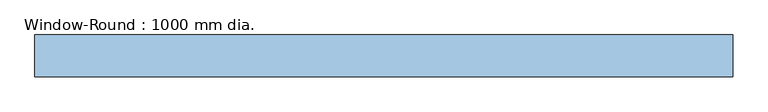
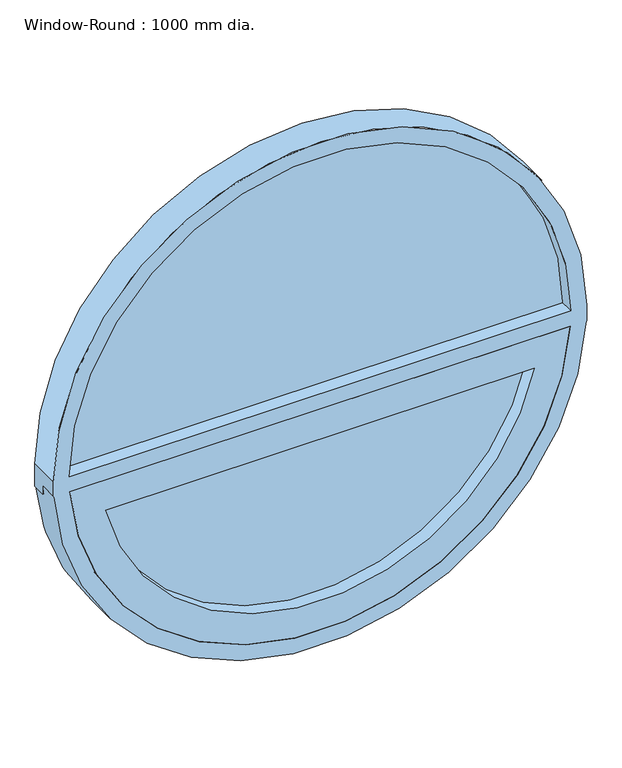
"""IFC4 building model written with IfcOpenShell, lengths in millimetres: window geometry, Window-Round : 1000 mm dia.."""

from ifc_helpers import new_model, si_unit, point, frame, frame_2d, origin, place, context, project, spatial, polyline, circle_curve, trimmed, segment, composite_curve, outline, extrude, source, transform, mapped, element, save
from ifc_brep_helpers import plane_surface, cylinder_surface, revolved_surface, advanced_brep


def window_round_1000_mm_dia_47539739(model_context):
    return source(origin(), model_context, "Body", "SolidModel", [
        advanced_brep(
        [(150.0, -30.0, 1300.0), (150.0, -30.0, 1270.0), (150.0, 5.0, 1270.0), (150.0, 5.0, 1255.0), (150.0, 30.0, 1255.0), (150.0, 30.0, 1300.0), (-850.0, 30.0, 1300.0), (-850.0, 30.0, 1255.0), (-850.0, 5.0, 1255.0), (-850.0, 5.0, 1270.0), (-850.0, -30.0, 1270.0), (-850.0, -30.0, 1300.0), (-849.0991885, -30.0, 1270.0), (149.0991885, -30.0, 1270.0), (-819.041576, -30.0, 1270.0), (119.041576, -30.0, 1270.0), (120.0, -30.0, 1300.0), (-820.0, -30.0, 1300.0), (149.0991885, 5.0, 1270.0), (-849.0991885, 5.0, 1270.0), (-819.041576, 5.0, 1270.0), (119.041576, 5.0, 1270.0), (147.9708827, 5.0, 1255.0), (-847.9708827, 5.0, 1255.0), (-802.7692569, 5.0, 1255.0), (102.7692569, 5.0, 1255.0), (120.0, 5.0, 1300.0), (-820.0, 5.0, 1300.0), (-805.0, 5.0, 1300.0), (105.0, 5.0, 1300.0), (147.9708827, 30.0, 1255.0), (-847.9708827, 30.0, 1255.0), (-802.7692569, 30.0, 1255.0), (102.7692569, 30.0, 1255.0), (-805.0, 30.0, 1300.0), (105.0, 30.0, 1300.0)],
        [
            (0, 1),
            (1, 2),
            (2, 3),
            (3, 4),
            (4, 5),
            (5, 0),
            (6, 7),
            (7, 8),
            (8, 9),
            (9, 10),
            (10, 11),
            (11, 6),
            (0, 11, circle_curve(frame((-350.0, -30.0, 1300.0), z_axis=(0.0, -1.0, 0.0), x_axis=(1.0, 0.0, 0.0)), 500.0)),
            (10, 12),
            (12, 13, circle_curve(frame((-350.0, -30.0, 1300.0), z_axis=(0.0, -1.0, 0.0), x_axis=(-1.0, 0.0, 0.0)), 500.0)),
            (13, 1),
            (14, 15),
            (15, 14, circle_curve(frame((-350.0, -30.0, 1300.0), z_axis=(0.0, 1.0, 0.0), x_axis=(-1.0, 0.0, 0.0)), 470.0)),
            (16, 17),
            (17, 16, circle_curve(frame((-350.0, -30.0, 1300.0), z_axis=(0.0, 1.0, 0.0), x_axis=(1.0, 0.0, 0.0)), 470.0)),
            (13, 18),
            (18, 2),
            (9, 19),
            (19, 12),
            (14, 20),
            (20, 21),
            (21, 15),
            (18, 22, circle_curve(frame((-350.0, 5.0, 1300.0), z_axis=(0.0, 1.0, 0.0), x_axis=(-1.0, 0.0, 0.0)), 500.0)),
            (22, 3),
            (8, 23),
            (23, 19, circle_curve(frame((-350.0, 5.0, 1300.0), z_axis=(0.0, 1.0, 0.0), x_axis=(-1.0, 0.0, 0.0)), 500.0)),
            (20, 21, circle_curve(frame((-350.0, 5.0, 1300.0), z_axis=(0.0, -1.0, 0.0), x_axis=(-1.0, 0.0, 0.0)), 470.0)),
            (24, 25),
            (25, 24, circle_curve(frame((-350.0, 5.0, 1300.0), z_axis=(0.0, 1.0, 0.0), x_axis=(-1.0, 0.0, 0.0)), 455.0)),
            (26, 27, circle_curve(frame((-350.0, 5.0, 1300.0), z_axis=(0.0, -1.0, 0.0), x_axis=(1.0, 0.0, 0.0)), 470.0)),
            (27, 28),
            (28, 29, circle_curve(frame((-350.0, 5.0, 1300.0), z_axis=(0.0, 1.0, 0.0), x_axis=(1.0, 0.0, 0.0)), 455.0)),
            (29, 26),
            (22, 30),
            (30, 4),
            (7, 31),
            (31, 23),
            (24, 32),
            (32, 33),
            (33, 25),
            (30, 31, circle_curve(frame((-350.0, 30.0, 1300.0), z_axis=(0.0, 1.0, 0.0), x_axis=(-1.0, 0.0, 0.0)), 500.0)),
            (6, 5, circle_curve(frame((-350.0, 30.0, 1300.0), z_axis=(0.0, 1.0, 0.0), x_axis=(1.0, 0.0, 0.0)), 500.0)),
            (32, 33, circle_curve(frame((-350.0, 30.0, 1300.0), z_axis=(0.0, -1.0, 0.0), x_axis=(-1.0, 0.0, 0.0)), 455.0)),
            (34, 35),
            (35, 34, circle_curve(frame((-350.0, 30.0, 1300.0), z_axis=(0.0, -1.0, 0.0), x_axis=(1.0, 0.0, 0.0)), 455.0)),
            (16, 26),
            (29, 35),
            (34, 28),
            (27, 17),
        ],
        [
            plane_surface(frame((150.0, -30.0, 1300.0), z_axis=(1.0, 0.0, 0.0), x_axis=(0.0, 0.0, -1.0))),
            plane_surface(frame((-850.0, -30.0, 1300.0), z_axis=(-1.0, 0.0, 0.0), x_axis=(0.0, 0.0, 1.0))),
            plane_surface(frame((150.0, -30.0, 1300.0), z_axis=(0.0, -1.0, 0.0), x_axis=(-1.0, 0.0, 0.0))),
            plane_surface(frame((150.0, -30.0, 1270.0), z_axis=(0.0, 0.0, -1.0), x_axis=(-1.0, 0.0, 0.0))),
            plane_surface(frame((150.0, 5.0, 1270.0), z_axis=(0.0, -1.0, 0.0), x_axis=(-1.0, 0.0, 0.0))),
            plane_surface(frame((150.0, 5.0, 1255.0), z_axis=(0.0, 0.0, -1.0), x_axis=(-1.0, 0.0, 0.0))),
            plane_surface(frame((150.0, 30.0, 1255.0), z_axis=(0.0, 1.0, 0.0), x_axis=(-1.0, 0.0, 0.0))),
            plane_surface(frame((150.0, 30.0, 1300.0), z_axis=(0.0, 0.0, 1.0), x_axis=(-1.0, 0.0, 0.0))),
            cylinder_surface(frame((-350.0, 0.0, 1300.0), z_axis=(0.0, -1.0, 0.0), x_axis=(-1.0, 0.0, 0.0)), 500.0),
            revolved_surface(polyline([(-820.0, -30.0, 1300.0), (-820.0, 5.0, 1300.0)]), (-350.0, 0.0, 1300.0), (0.0, -1.0, 0.0)),
            revolved_surface(polyline([(-805.0, 5.0, 1300.0), (-805.0, 30.0, 1300.0)]), (-350.0, 0.0, 1300.0), (0.0, -1.0, 0.0)),
            cylinder_surface(frame((-350.0, 0.0, 1300.0), z_axis=(0.0, -1.0, 0.0), x_axis=(1.0, 0.0, 0.0)), 500.0),
            revolved_surface(polyline([(120.0, -30.0, 1300.0), (120.0, 5.0, 1300.0)]), (-350.0, 0.0, 1300.0), (0.0, -1.0, 0.0)),
            revolved_surface(polyline([(105.0, 5.0, 1300.0), (105.0, 30.0, 1300.0)]), (-350.0, 0.0, 1300.0), (0.0, -1.0, 0.0)),
        ],
        [
            (0, [[1, 2, 3, 4, 5, 6]]),
            (1, [[7, 8, 9, 10, 11, 12]]),
            (2, [[-1, 13, -11, 14, 15, 16], [17, 18], [19, 20]]),
            (3, [[-2, -16, 21, 22]]),
            (3, [[-10, 23, 24, -14]]),
            (3, [[-17, 25, 26, 27]]),
            (4, [[-3, -22, 28, 29]]),
            (4, [[-9, 30, 31, -23]]),
            (4, [[-26, 32], [33, 34]]),
            (4, [[35, 36, 37, 38]]),
            (5, [[-4, -29, 39, 40]]),
            (5, [[-8, 41, 42, -30]]),
            (5, [[-33, 43, 44, 45]]),
            (6, [[-5, -40, 46, -41, -7, 47], [-44, 48], [49, 50]]),
            (7, [[-19, 51, -38, 52, -49, 53, -36, 54]]),
            (8, [[-15, -24, -31, -42, -46, -39, -28, -21]]),
            (9, [[-18, -27, -32, -25]]),
            (10, [[-34, -45, -48, -43]]),
            (11, [[-13, -6, -47, -12]]),
            (12, [[-20, -54, -35, -51]]),
            (13, [[-37, -53, -50, -52]]),
        ],
    ),
        extrude(outline(composite_curve([segment(polyline([(1210.0, 51.9960159), (1210.0, -751.9960159)]), True, "CONTINUOUS"), segment(trimmed(circle_curve(frame_2d((1300.0, -350.0)), 411.9475656), [point((1210.0, -751.9960159))], [point((1210.0, 51.9960159))], False, "CARTESIAN"), True, "CONTINUOUS")], self_intersect=False)), frame((0.0, -4.0, 0.0), z_axis=(0.0, 1.0, 0.0), x_axis=(0.0, 0.0, 1.0)), (0.0, 0.0, 1.0), 4.0),
        extrude(outline(composite_curve([segment(polyline([(1300.0, -820.0), (1300.0, 120.0)]), True, "CONTINUOUS"), segment(trimmed(circle_curve(frame_2d((1300.0, -350.0)), 470.0), [point((1300.0, 120.0))], [point((1300.0, -820.0))], False, "CARTESIAN"), True, "CONTINUOUS")], self_intersect=False)), frame((0.0, -4.0, 0.0), z_axis=(0.0, 1.0, 0.0), x_axis=(0.0, 0.0, 1.0)), (0.0, 0.0, 1.0), 4.0),
        extrude(outline(composite_curve([segment(trimmed(circle_curve(frame_2d((1300.0, -350.0)), 470.0), [point((1270.0, -819.041576))], [point((1270.0, 119.041576))], False, "CARTESIAN"), True, "CONTINUOUS"), segment(polyline([(1270.0, 119.041576), (1270.0, -819.041576)]), True, "CONTINUOUS")], self_intersect=False), holes=[composite_curve([segment(polyline([(1210.0, -751.8276131), (1210.0, 51.8276131)]), True, "CONTINUOUS"), segment(trimmed(circle_curve(frame_2d((1300.0, -350.0)), 411.7832326), [point((1210.0, 51.8276131))], [point((1210.0, -751.8276131))], True, "CARTESIAN"), True, "CONTINUOUS")], self_intersect=False)]), frame((0.0, -30.0, 0.0), z_axis=(0.0, 1.0, 0.0), x_axis=(0.0, 0.0, 1.0)), (0.0, 0.0, 1.0), 35.0),
    ])


if __name__ == "__main__":
    model = new_model("IFC4")
    model_context = context("Model", 3, world=origin())
    ifc_project = project(units=[si_unit("LENGTHUNIT", "METRE", prefix="MILLI")], contexts=[model_context])
    site = spatial("IfcSite", under=ifc_project)
    building = spatial("IfcBuilding", under=site)
    placement = place(None, origin())
    window_round_1000_mm_dia_shape = window_round_1000_mm_dia_47539739(model_context)
    element("IfcWindow", 1, ObjectType="Window-Round : 1000 mm dia.", at=placement, inside=building, context=model_context, shape_type="MappedRepresentation", body=[
        mapped(window_round_1000_mm_dia_shape, transform((0.0, 0.0, 0.0), x_axis=(1.0, 0.0, 0.0), y_axis=(0.0, 1.0, 0.0), z_axis=(0.0, 0.0, 1.0))),
    ])
    save(model, "model.ifc")
